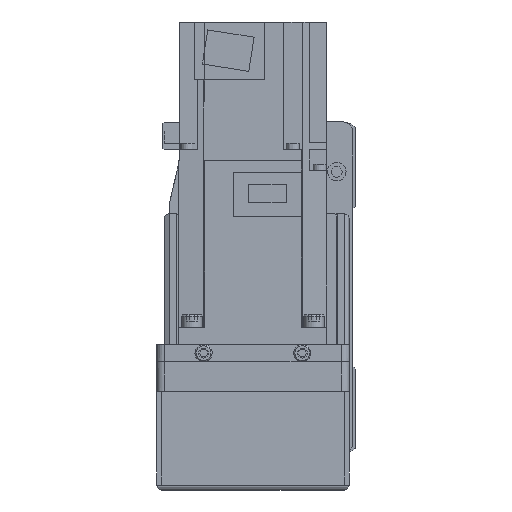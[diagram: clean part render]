
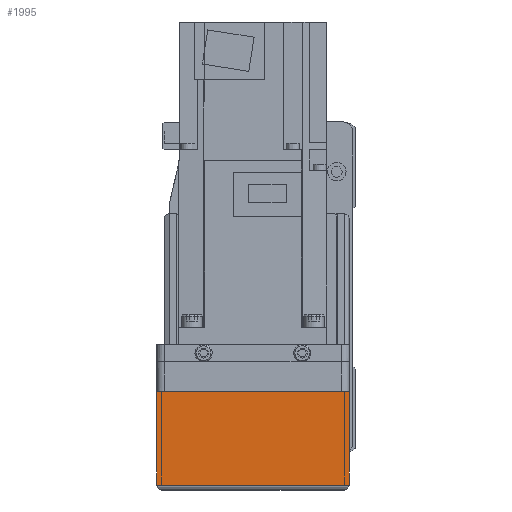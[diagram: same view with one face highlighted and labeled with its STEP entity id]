
A CAD part, left-side view. The second image highlights one B-rep face of the part: STEP entity #1995.
In plain terms, the highlighted planar face has unit normal (-1, 0, 0).
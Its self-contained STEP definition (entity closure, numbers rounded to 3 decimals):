
#1995 = ADVANCED_FACE( '', ( #4720 ), #4721, .F. );
#4720 = FACE_OUTER_BOUND( '', #8337, .T. );
#4721 = PLANE( '', #8338 );
#8337 = EDGE_LOOP( '', ( #13940, #13941, #13942, #13943 ) );
#8338 = AXIS2_PLACEMENT_3D( '', #13944, #13945, #13946 );
#13940 = ORIENTED_EDGE( '', *, *, #21127, .F. );
#13941 = ORIENTED_EDGE( '', *, *, #20824, .F. );
#13942 = ORIENTED_EDGE( '', *, *, #21983, .T. );
#13943 = ORIENTED_EDGE( '', *, *, #21453, .F. );
#13944 = CARTESIAN_POINT( '', ( -158., 36., 7. ) );
#13945 = DIRECTION( '', ( 1., 0., 0. ) );
#13946 = DIRECTION( '', ( 0., 0., -1. ) );
#20824 = EDGE_CURVE( '', #25007, #25009, #25010, .T. );
#21127 = EDGE_CURVE( '', #25009, #25511, #25512, .T. );
#21453 = EDGE_CURVE( '', #25511, #26053, #26054, .T. );
#21983 = EDGE_CURVE( '', #25007, #26053, #26879, .T. );
#25007 = VERTEX_POINT( '', #31010 );
#25009 = VERTEX_POINT( '', #31013 );
#25010 = LINE( '', #31014, #31015 );
#25511 = VERTEX_POINT( '', #31910 );
#25512 = LINE( '', #31911, #31912 );
#26053 = VERTEX_POINT( '', #32728 );
#26054 = LINE( '', #32729, #32730 );
#26879 = LINE( '', #33996, #33997 );
#31010 = CARTESIAN_POINT( '', ( -158., 39., -50. ) );
#31013 = CARTESIAN_POINT( '', ( -158., 39., -12.1 ) );
#31014 = CARTESIAN_POINT( '', ( -158., 39., -50. ) );
#31015 = VECTOR( '', #38693, 1000. );
#31910 = CARTESIAN_POINT( '', ( -158., -39., -12.1 ) );
#31911 = CARTESIAN_POINT( '', ( -158., 50., -12.1 ) );
#31912 = VECTOR( '', #39042, 1000. );
#32728 = CARTESIAN_POINT( '', ( -158., -39., -50. ) );
#32729 = CARTESIAN_POINT( '', ( -158., -39., -12.1 ) );
#32730 = VECTOR( '', #39424, 1000. );
#33996 = CARTESIAN_POINT( '', ( -158., 40., -50. ) );
#33997 = VECTOR( '', #40102, 1000. );
#38693 = DIRECTION( '', ( 0., 0., 1. ) );
#39042 = DIRECTION( '', ( 0., -1., 0. ) );
#39424 = DIRECTION( '', ( 0., 0., -1. ) );
#40102 = DIRECTION( '', ( 0., -1., 0. ) );
